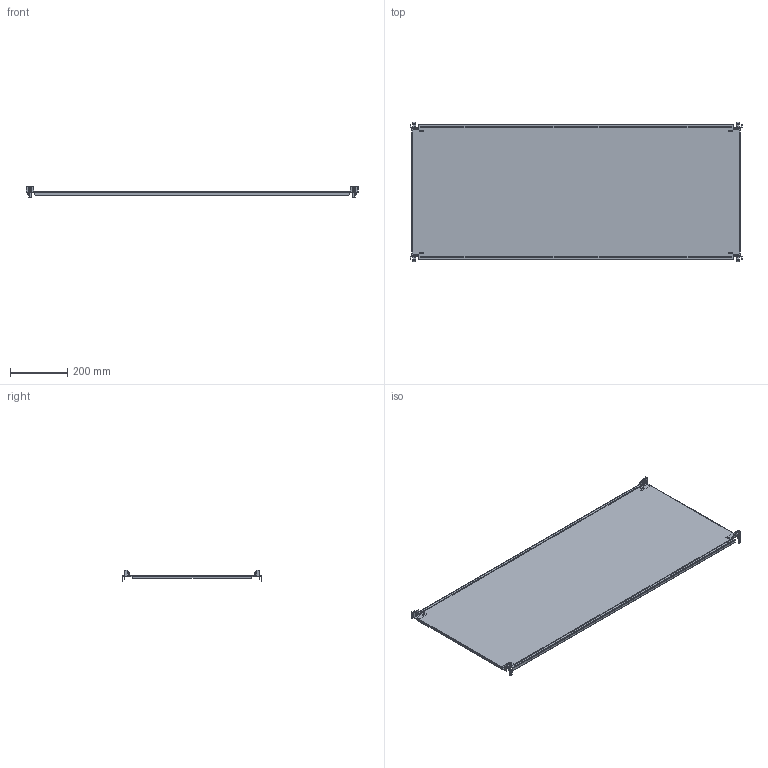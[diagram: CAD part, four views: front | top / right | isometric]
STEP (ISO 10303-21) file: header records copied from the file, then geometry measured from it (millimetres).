
FILE_DESCRIPTION(('CAx-IF Rec.Pracs.---Model Styling and Organization---1.2---2011-12-15','CAx-IF Rec.Pracs.---Geometric and Assembly Validation Properties---4.1---2014-06-16','CAx-IF Rec.Pracs.---PMI Polyline Presentation---2.0---2013-05-24'),'2;1');
FILE_NAME('R5CPB1250.stp','2021-05-06T03:29:19+03:00',(''),(''),'STEP Interface 4.4 by CT CoreTechnologie','3D_Evolution4.4 by CT CoreTechnologie','');
FILE_SCHEMA(('AUTOMOTIVE_DESIGN { 1 0 10303 214 1 1 1 1 }'));
Length unit declared in the file: millimetre
Products named in the file (6): R5CPB1250; RB.0546.00.00.0_-00; M6x16-DIN 7985 ISR_thread; AC00C485; RB.0546.00.00.0_-01; RB.1670.00.00.0_-02
Assembly tree (13 placements, depth 2):
  R5CPB1250
    RB.0546.00.00.0_-00  x2
    M6x16-DIN 7985 ISR_thread  x4
    AC00C485  x4
    RB.0546.00.00.0_-01  x2
    RB.1670.00.00.0_-02
Bounding box: 1155 x 487 x 39.05 mm (x, y, z)
Surface area: 1149942.4 mm2 (no closed solid volume)
Topology: 0 solids, 21 shells, 596 faces, 1526 edges, 960 vertices
Faces by surface type: plane 336, cylinder 204, bspline 56
Entity records: 9271 total; most frequent: CARTESIAN_POINT 1985, ORIENTED_EDGE 1446, DIRECTION 1390, EDGE_CURVE 723, VECTOR 568, LINE 568, VERTEX_POINT 470, AXIS2_PLACEMENT_3D 411
